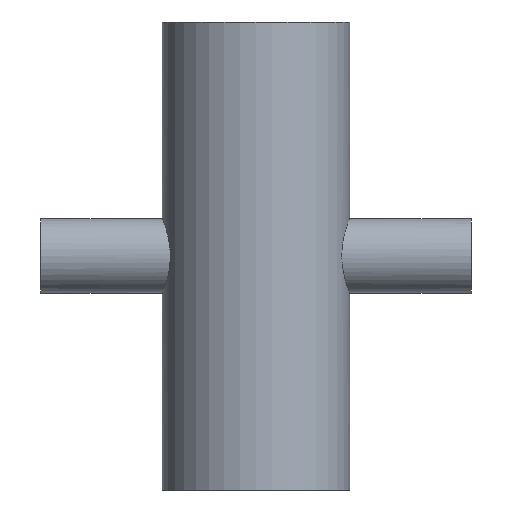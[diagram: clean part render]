
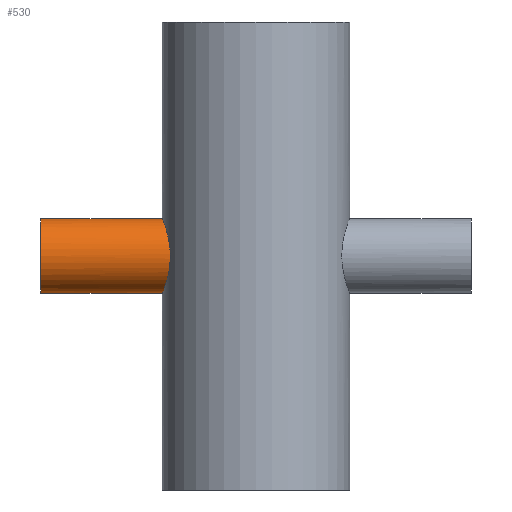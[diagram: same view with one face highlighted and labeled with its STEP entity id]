
A CAD part, front view. The second image highlights one B-rep face of the part: STEP entity #530.
In plain terms, the highlighted cylindrical face has radius 12.7 mm (diameter 25.4 mm), a partial arc.
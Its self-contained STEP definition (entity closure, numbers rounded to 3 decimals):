
#48 = CARTESIAN_POINT ( 'NONE',  ( -30.873, -7.418, 10.317 ) ) ;
#65 = FACE_OUTER_BOUND ( 'NONE', #752, .T. ) ;
#78 = EDGE_CURVE ( 'NONE', #867, #379, #200, .T. ) ;
#86 = LINE ( 'NONE', #143, #498 ) ;
#102 = LINE ( 'NONE', #827, #189 ) ;
#115 = DIRECTION ( 'NONE',  ( 1., 0., 0. ) ) ;
#124 = EDGE_CURVE ( 'NONE', #743, #236, #343, .T. ) ;
#135 = CYLINDRICAL_SURFACE ( 'NONE', #285, 12.7 ) ;
#143 = CARTESIAN_POINT ( 'NONE',  ( -73.025, 0., 12.7 ) ) ;
#180 = CARTESIAN_POINT ( 'NONE',  ( -73.025, 0., 0. ) ) ;
#189 = VECTOR ( 'NONE', #889, 1000. ) ;
#198 = CARTESIAN_POINT ( 'NONE',  ( -30.025, -10.326, -7.405 ) ) ;
#200 = B_SPLINE_CURVE_WITH_KNOTS ( 'NONE', 3,
 ( #848, #775, #645, #291, #690, #352, #614, #630, #624, #48, #829, #486, #841, #411, #608, #605, #578, #576, #567, #564, #560, #550, #539, #499, #495, #489, #480, #476, #472, #469, #466, #463, #461, #198, #432, #430, #428, #425, #417, #413, #409, #405, #404, #402, #397, #394, #363, #360, #355, #349 ),
 .UNSPECIFIED., .F., .F.,
 ( 4, 2, 2, 2, 2, 2, 2, 2, 2, 2, 2, 2, 2, 2, 2, 2, 2, 2, 2, 2, 2, 2, 2, 2, 4 ),
 ( 0., 0.003, 0.004, 0.005, 0.008, 0.009, 0.01, 0.011, 0.013, 0.015, 0.016, 0.018, 0.02, 0.021, 0.023, 0.025, 0.028, 0.029, 0.03, 0.033, 0.034, 0.035, 0.038, 0.039, 0.04 ),
 .UNSPECIFIED. ) ;
#222 = CARTESIAN_POINT ( 'NONE',  ( -73.025, 0., 12.7 ) ) ;
#236 = VERTEX_POINT ( 'NONE', #712 ) ;
#250 = DIRECTION ( 'NONE',  ( 1., 0., 0. ) ) ;
#265 = CARTESIAN_POINT ( 'NONE',  ( -73.025, 0., 0. ) ) ;
#282 = DIRECTION ( 'NONE',  ( 0., 0., -1. ) ) ;
#285 = AXIS2_PLACEMENT_3D ( 'NONE', #265, #555, #481 ) ;
#291 = CARTESIAN_POINT ( 'NONE',  ( -31.619, -2.907, 12.37 ) ) ;
#325 = AXIS2_PLACEMENT_3D ( 'NONE', #180, #250, #282 ) ;
#343 = CIRCLE ( 'NONE', #325, 12.7 ) ;
#349 = CARTESIAN_POINT ( 'NONE',  ( -31.75, 0., -12.7 ) ) ;
#352 = CARTESIAN_POINT ( 'NONE',  ( -31.485, -4.115, 12.022 ) ) ;
#355 = CARTESIAN_POINT ( 'NONE',  ( -31.75, -0.424, -12.7 ) ) ;
#360 = CARTESIAN_POINT ( 'NONE',  ( -31.741, -0.846, -12.679 ) ) ;
#363 = CARTESIAN_POINT ( 'NONE',  ( -31.708, -1.686, -12.595 ) ) ;
#379 = VERTEX_POINT ( 'NONE', #871 ) ;
#394 = CARTESIAN_POINT ( 'NONE',  ( -31.683, -2.105, -12.531 ) ) ;
#397 = CARTESIAN_POINT ( 'NONE',  ( -31.584, -3.345, -12.281 ) ) ;
#402 = CARTESIAN_POINT ( 'NONE',  ( -31.489, -4.138, -12.035 ) ) ;
#404 = CARTESIAN_POINT ( 'NONE',  ( -31.31, -5.282, -11.557 ) ) ;
#405 = CARTESIAN_POINT ( 'NONE',  ( -31.244, -5.656, -11.379 ) ) ;
#409 = CARTESIAN_POINT ( 'NONE',  ( -31.103, -6.388, -10.985 ) ) ;
#411 = CARTESIAN_POINT ( 'NONE',  ( -30.367, -9.272, 8.688 ) ) ;
#413 = CARTESIAN_POINT ( 'NONE',  ( -31.027, -6.746, -10.768 ) ) ;
#417 = CARTESIAN_POINT ( 'NONE',  ( -30.792, -7.774, -10.077 ) ) ;
#425 = CARTESIAN_POINT ( 'NONE',  ( -30.623, -8.406, -9.556 ) ) ;
#428 = CARTESIAN_POINT ( 'NONE',  ( -30.366, -9.277, -8.684 ) ) ;
#430 = CARTESIAN_POINT ( 'NONE',  ( -30.279, -9.555, -8.376 ) ) ;
#432 = CARTESIAN_POINT ( 'NONE',  ( -30.109, -10.08, -7.736 ) ) ;
#461 = CARTESIAN_POINT ( 'NONE',  ( -29.783, -11.012, -6.38 ) ) ;
#463 = CARTESIAN_POINT ( 'NONE',  ( -29.634, -11.403, -5.653 ) ) ;
#466 = CARTESIAN_POINT ( 'NONE',  ( -29.378, -12.047, -4.106 ) ) ;
#469 = CARTESIAN_POINT ( 'NONE',  ( -29.276, -12.29, -3.309 ) ) ;
#472 = CARTESIAN_POINT ( 'NONE',  ( -29.171, -12.535, -2.082 ) ) ;
#476 = CARTESIAN_POINT ( 'NONE',  ( -29.144, -12.597, -1.667 ) ) ;
#480 = CARTESIAN_POINT ( 'NONE',  ( -29.108, -12.68, -0.826 ) ) ;
#481 = DIRECTION ( 'NONE',  ( 0., 0., -1. ) ) ;
#486 = CARTESIAN_POINT ( 'NONE',  ( -30.623, -8.39, 9.543 ) ) ;
#489 = CARTESIAN_POINT ( 'NONE',  ( -29.099, -12.701, -0.402 ) ) ;
#495 = CARTESIAN_POINT ( 'NONE',  ( -29.1, -12.699, 0.855 ) ) ;
#498 = VECTOR ( 'NONE', #115, 1000. ) ;
#499 = CARTESIAN_POINT ( 'NONE',  ( -29.137, -12.616, 1.684 ) ) ;
#530 = ADVANCED_FACE ( 'NONE', ( #65 ), #135, .T. ) ;
#537 = EDGE_CURVE ( 'NONE', #236, #379, #102, .T. ) ;
#539 = CARTESIAN_POINT ( 'NONE',  ( -29.242, -12.368, 2.916 ) ) ;
#550 = CARTESIAN_POINT ( 'NONE',  ( -29.286, -12.264, 3.327 ) ) ;
#555 = DIRECTION ( 'NONE',  ( 1., 0., 0. ) ) ;
#557 = ORIENTED_EDGE ( 'NONE', *, *, #124, .T. ) ;
#560 = CARTESIAN_POINT ( 'NONE',  ( -29.388, -12.018, 4.126 ) ) ;
#564 = CARTESIAN_POINT ( 'NONE',  ( -29.445, -11.877, 4.516 ) ) ;
#567 = CARTESIAN_POINT ( 'NONE',  ( -29.635, -11.4, 5.659 ) ) ;
#576 = CARTESIAN_POINT ( 'NONE',  ( -29.784, -11.01, 6.384 ) ) ;
#578 = CARTESIAN_POINT ( 'NONE',  ( -30.028, -10.317, 7.418 ) ) ;
#594 = ORIENTED_EDGE ( 'NONE', *, *, #537, .T. ) ;
#605 = CARTESIAN_POINT ( 'NONE',  ( -30.112, -10.069, 7.75 ) ) ;
#608 = CARTESIAN_POINT ( 'NONE',  ( -30.282, -9.548, 8.385 ) ) ;
#614 = CARTESIAN_POINT ( 'NONE',  ( -31.43, -4.511, 11.879 ) ) ;
#624 = CARTESIAN_POINT ( 'NONE',  ( -31.109, -6.388, 11.008 ) ) ;
#630 = CARTESIAN_POINT ( 'NONE',  ( -31.251, -5.661, 11.399 ) ) ;
#645 = CARTESIAN_POINT ( 'NONE',  ( -31.716, -1.681, 12.616 ) ) ;
#690 = CARTESIAN_POINT ( 'NONE',  ( -31.579, -3.312, 12.268 ) ) ;
#712 = CARTESIAN_POINT ( 'NONE',  ( -73.025, 0., -12.7 ) ) ;
#715 = EDGE_CURVE ( 'NONE', #743, #867, #86, .T. ) ;
#735 = ORIENTED_EDGE ( 'NONE', *, *, #78, .F. ) ;
#742 = ORIENTED_EDGE ( 'NONE', *, *, #715, .F. ) ;
#743 = VERTEX_POINT ( 'NONE', #222 ) ;
#752 = EDGE_LOOP ( 'NONE', ( #742, #557, #594, #735 ) ) ;
#775 = CARTESIAN_POINT ( 'NONE',  ( -31.75, -0.848, 12.7 ) ) ;
#827 = CARTESIAN_POINT ( 'NONE',  ( -73.025, 0., -12.7 ) ) ;
#829 = CARTESIAN_POINT ( 'NONE',  ( -30.791, -7.753, 10.068 ) ) ;
#841 = CARTESIAN_POINT ( 'NONE',  ( -30.538, -8.693, 9.267 ) ) ;
#848 = CARTESIAN_POINT ( 'NONE',  ( -31.75, 0., 12.7 ) ) ;
#867 = VERTEX_POINT ( 'NONE', #891 ) ;
#871 = CARTESIAN_POINT ( 'NONE',  ( -31.75, 0., -12.7 ) ) ;
#889 = DIRECTION ( 'NONE',  ( 1., 0., 0. ) ) ;
#891 = CARTESIAN_POINT ( 'NONE',  ( -31.75, 0., 12.7 ) ) ;
